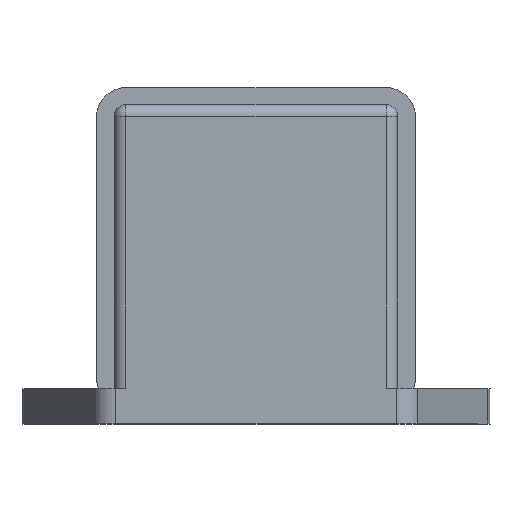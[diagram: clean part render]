
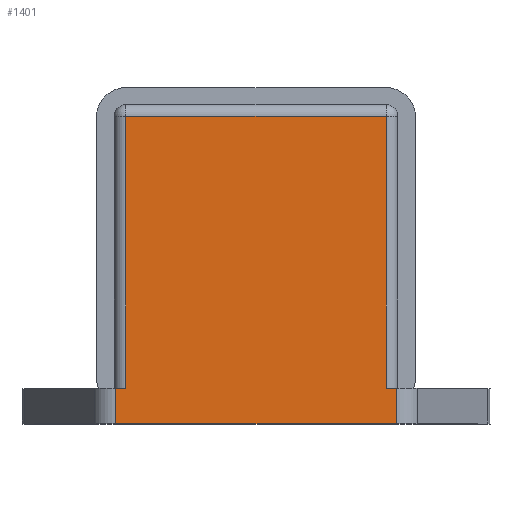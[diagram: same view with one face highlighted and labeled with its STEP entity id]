
A CAD part, top view. The second image highlights one B-rep face of the part: STEP entity #1401.
In plain terms, the highlighted planar face has unit normal (0, 0, 1).
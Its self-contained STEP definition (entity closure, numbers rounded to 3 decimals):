
#108=LINE('',#2498,#231);
#112=LINE('',#2510,#235);
#118=LINE('',#2533,#241);
#119=LINE('',#2535,#242);
#120=LINE('',#2537,#243);
#121=LINE('',#2539,#244);
#122=LINE('',#2541,#245);
#123=LINE('',#2542,#246);
#231=VECTOR('',#1834,22.);
#235=VECTOR('',#1850,23.);
#241=VECTOR('',#1866,23.);
#242=VECTOR('',#1867,0.856);
#243=VECTOR('',#1868,3.);
#244=VECTOR('',#1869,23.713);
#245=VECTOR('',#1870,3.);
#246=VECTOR('',#1871,0.856);
#315=PLANE('',#1527);
#403=FACE_OUTER_BOUND('',#496,.T.);
#496=EDGE_LOOP('',(#1197,#1198,#1199,#1200,#1201,#1202,#1203,#1204));
#677=VERTEX_POINT('',#2488);
#680=VERTEX_POINT('',#2496);
#682=VERTEX_POINT('',#2509);
#688=VERTEX_POINT('',#2532);
#689=VERTEX_POINT('',#2534);
#690=VERTEX_POINT('',#2536);
#691=VERTEX_POINT('',#2538);
#692=VERTEX_POINT('',#2540);
#852=EDGE_CURVE('',#680,#677,#108,.T.);
#858=EDGE_CURVE('',#677,#682,#112,.T.);
#867=EDGE_CURVE('',#688,#680,#118,.T.);
#868=EDGE_CURVE('',#689,#688,#119,.T.);
#869=EDGE_CURVE('',#690,#689,#120,.T.);
#870=EDGE_CURVE('',#691,#690,#121,.T.);
#871=EDGE_CURVE('',#692,#691,#122,.T.);
#872=EDGE_CURVE('',#682,#692,#123,.T.);
#1197=ORIENTED_EDGE('',*,*,#852,.F.);
#1198=ORIENTED_EDGE('',*,*,#867,.F.);
#1199=ORIENTED_EDGE('',*,*,#868,.F.);
#1200=ORIENTED_EDGE('',*,*,#869,.F.);
#1201=ORIENTED_EDGE('',*,*,#870,.F.);
#1202=ORIENTED_EDGE('',*,*,#871,.F.);
#1203=ORIENTED_EDGE('',*,*,#872,.F.);
#1204=ORIENTED_EDGE('',*,*,#858,.F.);
#1401=ADVANCED_FACE('',(#403),#315,.T.);
#1527=AXIS2_PLACEMENT_3D('',#2531,#1864,#1865);
#1834=DIRECTION('',(1.,0.,0.));
#1850=DIRECTION('',(0.,-1.,0.));
#1864=DIRECTION('center_axis',(0.,0.,1.));
#1865=DIRECTION('ref_axis',(1.,0.,0.));
#1866=DIRECTION('',(0.,1.,0.));
#1867=DIRECTION('',(1.,0.,0.));
#1868=DIRECTION('',(0.,1.,0.));
#1869=DIRECTION('',(-1.,0.,0.));
#1870=DIRECTION('',(0.,-1.,0.));
#1871=DIRECTION('',(1.,0.,0.));
#2488=CARTESIAN_POINT('',(11.,11.,40.));
#2496=CARTESIAN_POINT('',(-11.,11.,40.));
#2498=CARTESIAN_POINT('',(6.,11.,40.));
#2509=CARTESIAN_POINT('',(11.,-12.,40.));
#2510=CARTESIAN_POINT('',(11.,0.,40.));
#2531=CARTESIAN_POINT('Origin',(0.,0.,40.));
#2532=CARTESIAN_POINT('',(-11.,-12.,40.));
#2533=CARTESIAN_POINT('',(-11.,0.,40.));
#2534=CARTESIAN_POINT('',(-11.856,-12.,40.));
#2535=CARTESIAN_POINT('',(0.,-12.,40.));
#2536=CARTESIAN_POINT('',(-11.856,-15.,40.));
#2537=CARTESIAN_POINT('',(-11.856,-6.,40.));
#2538=CARTESIAN_POINT('',(11.856,-15.,40.));
#2539=CARTESIAN_POINT('',(20.,-15.,40.));
#2540=CARTESIAN_POINT('',(11.856,-12.,40.));
#2541=CARTESIAN_POINT('',(11.856,-6.,40.));
#2542=CARTESIAN_POINT('',(0.,-12.,40.));
